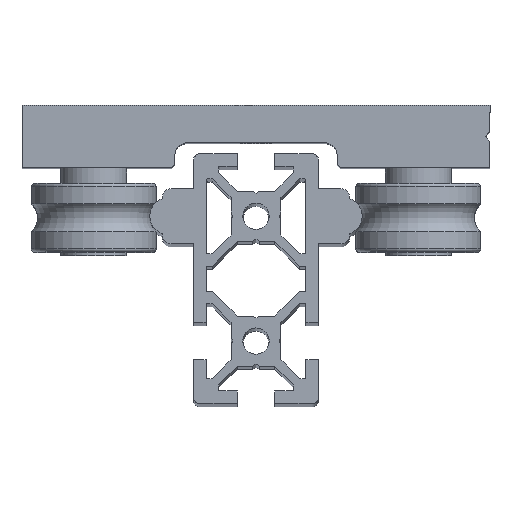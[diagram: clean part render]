
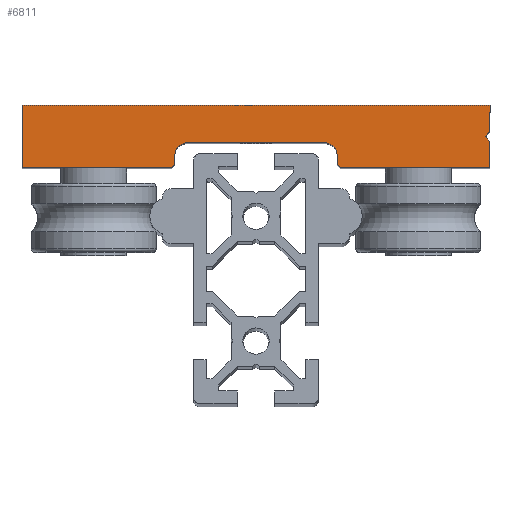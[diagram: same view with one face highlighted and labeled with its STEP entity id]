
A CAD part, top view. The second image highlights one B-rep face of the part: STEP entity #6811.
In plain terms, the highlighted planar face has unit normal (0, 0, 1).
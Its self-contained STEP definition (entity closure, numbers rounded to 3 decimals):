
#123 = ORIENTED_EDGE ( 'NONE', *, *, #8360, .T. ) ;
#255 = DIRECTION ( 'NONE',  ( 0.707, 0.707, 0. ) ) ;
#298 = DIRECTION ( 'NONE',  ( -1., 0., 0. ) ) ;
#349 = ORIENTED_EDGE ( 'NONE', *, *, #2409, .T. ) ;
#443 = ORIENTED_EDGE ( 'NONE', *, *, #9602, .T. ) ;
#470 = VERTEX_POINT ( 'NONE', #7801 ) ;
#526 = VECTOR ( 'NONE', #7251, 1000. ) ;
#562 = PLANE ( 'NONE',  #9308 ) ;
#629 = VERTEX_POINT ( 'NONE', #7634 ) ;
#739 = CARTESIAN_POINT ( 'NONE',  ( 36.7, 5., 80. ) ) ;
#753 = CARTESIAN_POINT ( 'NONE',  ( 13.5, 0., 80. ) ) ;
#842 = EDGE_CURVE ( 'NONE', #629, #5494, #4706, .T. ) ;
#866 = CARTESIAN_POINT ( 'NONE',  ( -37.5, 10., 80. ) ) ;
#886 = VECTOR ( 'NONE', #8332, 1000. ) ;
#1192 = ORIENTED_EDGE ( 'NONE', *, *, #11144, .T. ) ;
#1207 = AXIS2_PLACEMENT_3D ( 'NONE', #5324, #10703, #298 ) ;
#1370 = EDGE_CURVE ( 'NONE', #7705, #6381, #9194, .T. ) ;
#1426 = VERTEX_POINT ( 'NONE', #7606 ) ;
#1447 = VECTOR ( 'NONE', #2367, 1000. ) ;
#1465 = CARTESIAN_POINT ( 'NONE',  ( 37.5, 4.2, 80. ) ) ;
#1467 = CARTESIAN_POINT ( 'NONE',  ( 13., 0., 80. ) ) ;
#1481 = LINE ( 'NONE', #739, #9518 ) ;
#1613 = VERTEX_POINT ( 'NONE', #1694 ) ;
#1622 = CARTESIAN_POINT ( 'NONE',  ( 37.5, 0., 80. ) ) ;
#1694 = CARTESIAN_POINT ( 'NONE',  ( 37.5, 0., 80. ) ) ;
#1745 = CARTESIAN_POINT ( 'NONE',  ( -37.5, 0., 80. ) ) ;
#1873 = VERTEX_POINT ( 'NONE', #6779 ) ;
#2098 = CARTESIAN_POINT ( 'NONE',  ( 36.7, 5., 80. ) ) ;
#2194 = CARTESIAN_POINT ( 'NONE',  ( -11., 2., 80. ) ) ;
#2367 = DIRECTION ( 'NONE',  ( 1., 0., 0. ) ) ;
#2409 = EDGE_CURVE ( 'NONE', #1613, #9338, #5251, .T. ) ;
#2653 = AXIS2_PLACEMENT_3D ( 'NONE', #2194, #10767, #8245 ) ;
#2894 = CARTESIAN_POINT ( 'NONE',  ( 37.5, 0., 80. ) ) ;
#3216 = DIRECTION ( 'NONE',  ( -1., 0., 0. ) ) ;
#3220 = DIRECTION ( 'NONE',  ( 0., 1., 0. ) ) ;
#3321 = LINE ( 'NONE', #1465, #6479 ) ;
#4026 = CARTESIAN_POINT ( 'NONE',  ( -37.5, 0., 80. ) ) ;
#4081 = CARTESIAN_POINT ( 'NONE',  ( -37.5, 0., 80. ) ) ;
#4174 = DIRECTION ( 'NONE',  ( 0.707, 0.707, 0. ) ) ;
#4212 = CARTESIAN_POINT ( 'NONE',  ( 0., 0., 80. ) ) ;
#4318 = ORIENTED_EDGE ( 'NONE', *, *, #9763, .T. ) ;
#4359 = LINE ( 'NONE', #10265, #4869 ) ;
#4364 = VECTOR ( 'NONE', #9978, 1000. ) ;
#4393 = VERTEX_POINT ( 'NONE', #9271 ) ;
#4632 = CIRCLE ( 'NONE', #1207, 2. ) ;
#4706 = LINE ( 'NONE', #9152, #4364 ) ;
#4753 = CARTESIAN_POINT ( 'NONE',  ( 13.5, 0., 80. ) ) ;
#4843 = FACE_OUTER_BOUND ( 'NONE', #8118, .T. ) ;
#4869 = VECTOR ( 'NONE', #5224, 1000. ) ;
#5074 = ORIENTED_EDGE ( 'NONE', *, *, #9112, .T. ) ;
#5105 = LINE ( 'NONE', #1745, #7711 ) ;
#5160 = ORIENTED_EDGE ( 'NONE', *, *, #11053, .T. ) ;
#5218 = VERTEX_POINT ( 'NONE', #2098 ) ;
#5224 = DIRECTION ( 'NONE',  ( 0., -1., 0. ) ) ;
#5251 = LINE ( 'NONE', #2894, #526 ) ;
#5273 = EDGE_CURVE ( 'NONE', #7479, #1613, #9341, .T. ) ;
#5324 = CARTESIAN_POINT ( 'NONE',  ( 11., 2., 80. ) ) ;
#5342 = ORIENTED_EDGE ( 'NONE', *, *, #5364, .T. ) ;
#5364 = EDGE_CURVE ( 'NONE', #9977, #11104, #4359, .T. ) ;
#5421 = CARTESIAN_POINT ( 'NONE',  ( -13., 0.5, 80. ) ) ;
#5494 = VERTEX_POINT ( 'NONE', #10921 ) ;
#5685 = VECTOR ( 'NONE', #255, 1000. ) ;
#5718 = VECTOR ( 'NONE', #10814, 1000. ) ;
#5756 = CIRCLE ( 'NONE', #2653, 2. ) ;
#5760 = VECTOR ( 'NONE', #3220, 1000. ) ;
#5794 = LINE ( 'NONE', #8688, #10787 ) ;
#5813 = CARTESIAN_POINT ( 'NONE',  ( -13., 0., 80. ) ) ;
#5827 = DIRECTION ( 'NONE',  ( 1., 0., 0. ) ) ;
#5946 = ORIENTED_EDGE ( 'NONE', *, *, #9134, .T. ) ;
#6062 = ORIENTED_EDGE ( 'NONE', *, *, #9736, .T. ) ;
#6365 = CARTESIAN_POINT ( 'NONE',  ( 13., 2., 80. ) ) ;
#6381 = VERTEX_POINT ( 'NONE', #8750 ) ;
#6479 = VECTOR ( 'NONE', #9249, 1000. ) ;
#6611 = ORIENTED_EDGE ( 'NONE', *, *, #8300, .T. ) ;
#6625 = VECTOR ( 'NONE', #6770, 1000. ) ;
#6661 = LINE ( 'NONE', #5813, #6625 ) ;
#6753 = DIRECTION ( 'NONE',  ( 0., 0., -1. ) ) ;
#6770 = DIRECTION ( 'NONE',  ( 0., 1., 0. ) ) ;
#6779 = CARTESIAN_POINT ( 'NONE',  ( -13., 2., 80. ) ) ;
#6811 = ADVANCED_FACE ( 'NONE', ( #4843 ), #562, .F. ) ;
#7101 = ORIENTED_EDGE ( 'NONE', *, *, #1370, .T. ) ;
#7251 = DIRECTION ( 'NONE',  ( 0., 1., 0. ) ) ;
#7353 = ORIENTED_EDGE ( 'NONE', *, *, #8194, .T. ) ;
#7479 = VERTEX_POINT ( 'NONE', #753 ) ;
#7589 = CARTESIAN_POINT ( 'NONE',  ( 37.5, 4.2, 80. ) ) ;
#7606 = CARTESIAN_POINT ( 'NONE',  ( -13.5, 0., 80. ) ) ;
#7634 = CARTESIAN_POINT ( 'NONE',  ( -11., 4., 80. ) ) ;
#7705 = VERTEX_POINT ( 'NONE', #6365 ) ;
#7711 = VECTOR ( 'NONE', #5827, 1000. ) ;
#7801 = CARTESIAN_POINT ( 'NONE',  ( 37.5, 10., 80. ) ) ;
#7956 = LINE ( 'NONE', #9634, #5685 ) ;
#8118 = EDGE_LOOP ( 'NONE', ( #7101, #443, #9479, #349, #5946, #6062, #5074, #5160, #5342, #123, #7353, #4318, #6611, #10660, #1192 ) ) ;
#8194 = EDGE_CURVE ( 'NONE', #1426, #8950, #7956, .T. ) ;
#8245 = DIRECTION ( 'NONE',  ( -1., 0., 0. ) ) ;
#8300 = EDGE_CURVE ( 'NONE', #1873, #629, #5756, .T. ) ;
#8332 = DIRECTION ( 'NONE',  ( 0., -1., 0. ) ) ;
#8360 = EDGE_CURVE ( 'NONE', #11104, #1426, #5105, .T. ) ;
#8578 = DIRECTION ( 'NONE',  ( -1., 0., 0. ) ) ;
#8688 = CARTESIAN_POINT ( 'NONE',  ( -37.5, 10., 80. ) ) ;
#8750 = CARTESIAN_POINT ( 'NONE',  ( 13., 0.5, 80. ) ) ;
#8950 = VERTEX_POINT ( 'NONE', #5421 ) ;
#9112 = EDGE_CURVE ( 'NONE', #4393, #470, #9298, .T. ) ;
#9134 = EDGE_CURVE ( 'NONE', #9338, #5218, #3321, .T. ) ;
#9152 = CARTESIAN_POINT ( 'NONE',  ( 13., 4., 80. ) ) ;
#9194 = LINE ( 'NONE', #1467, #886 ) ;
#9249 = DIRECTION ( 'NONE',  ( -0.707, 0.707, 0. ) ) ;
#9271 = CARTESIAN_POINT ( 'NONE',  ( 37.5, 5.8, 80. ) ) ;
#9298 = LINE ( 'NONE', #1622, #5760 ) ;
#9308 = AXIS2_PLACEMENT_3D ( 'NONE', #4212, #6753, #3216 ) ;
#9338 = VERTEX_POINT ( 'NONE', #7589 ) ;
#9341 = LINE ( 'NONE', #4081, #1447 ) ;
#9479 = ORIENTED_EDGE ( 'NONE', *, *, #5273, .T. ) ;
#9518 = VECTOR ( 'NONE', #4174, 1000. ) ;
#9602 = EDGE_CURVE ( 'NONE', #6381, #7479, #10924, .T. ) ;
#9634 = CARTESIAN_POINT ( 'NONE',  ( -13., 0.5, 80. ) ) ;
#9736 = EDGE_CURVE ( 'NONE', #5218, #4393, #1481, .T. ) ;
#9763 = EDGE_CURVE ( 'NONE', #8950, #1873, #6661, .T. ) ;
#9977 = VERTEX_POINT ( 'NONE', #866 ) ;
#9978 = DIRECTION ( 'NONE',  ( 1., 0., 0. ) ) ;
#10265 = CARTESIAN_POINT ( 'NONE',  ( -37.5, 0., 80. ) ) ;
#10660 = ORIENTED_EDGE ( 'NONE', *, *, #842, .T. ) ;
#10703 = DIRECTION ( 'NONE',  ( 0., 0., -1. ) ) ;
#10767 = DIRECTION ( 'NONE',  ( 0., 0., -1. ) ) ;
#10787 = VECTOR ( 'NONE', #8578, 1000. ) ;
#10814 = DIRECTION ( 'NONE',  ( 0.707, -0.707, 0. ) ) ;
#10921 = CARTESIAN_POINT ( 'NONE',  ( 11., 4., 80. ) ) ;
#10924 = LINE ( 'NONE', #4753, #5718 ) ;
#11053 = EDGE_CURVE ( 'NONE', #470, #9977, #5794, .T. ) ;
#11104 = VERTEX_POINT ( 'NONE', #4026 ) ;
#11144 = EDGE_CURVE ( 'NONE', #5494, #7705, #4632, .T. ) ;
